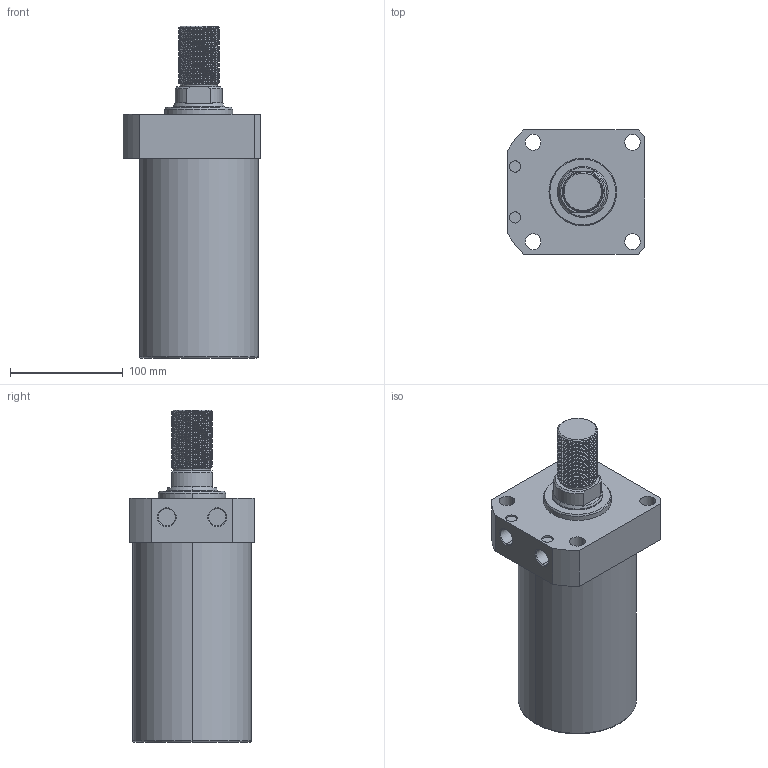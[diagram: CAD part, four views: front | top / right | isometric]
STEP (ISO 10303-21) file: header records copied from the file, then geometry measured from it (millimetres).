
FILE_DESCRIPTION (( 'STEP AP214' ), '1' );
FILE_NAME ('CLLR-105CT-130.STEP', '2020-01-10T05:58:14', ( 'Windows' ), ( 'Microsoft' ), 'SwSTEP 2.0', 'SolidWorks 2015', '' );
FILE_SCHEMA (( 'AUTOMOTIVE_DESIGN' ));
Length unit declared in the file: millimetre
Products named in the file (1): CLLR-105CT-130
Bounding box: 122 x 110 x 294 mm (x, y, z)
Volume: 2104733.7 mm3; surface area: 123083.2 mm2
Topology: 1 solids, 1 shells, 136 faces, 364 edges, 238 vertices
Faces by surface type: cylinder 96, plane 20, cone 16, torus 2, bspline 2
Entity records: 8014 total; most frequent: CARTESIAN_POINT 4887, ORIENTED_EDGE 728, DIRECTION 563, EDGE_CURVE 364, VERTEX_POINT 238, AXIS2_PLACEMENT_3D 215, EDGE_LOOP 152, FACE_OUTER_BOUND 136
